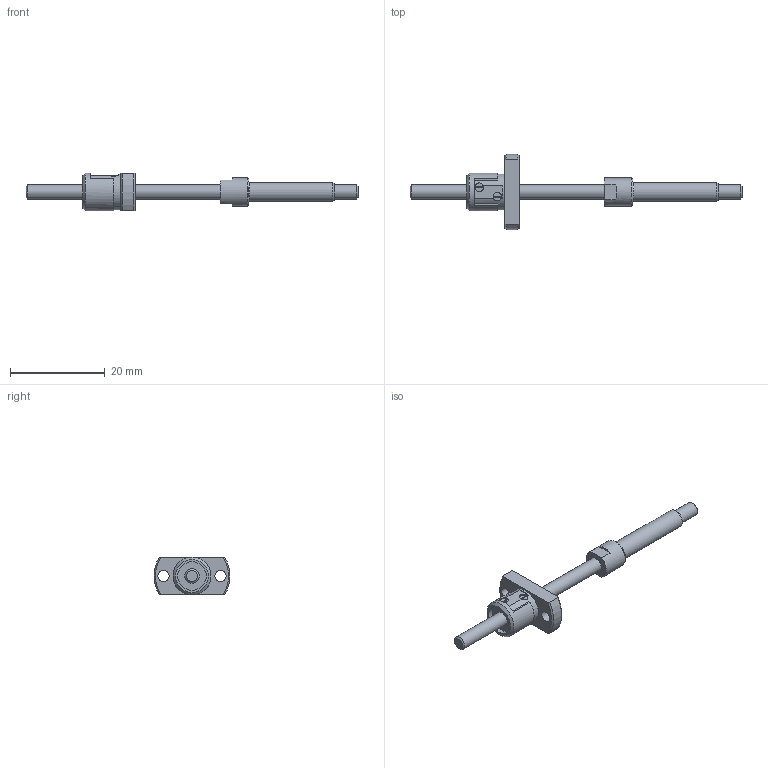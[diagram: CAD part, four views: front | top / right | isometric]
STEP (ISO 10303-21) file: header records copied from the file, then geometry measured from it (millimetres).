
FILE_DESCRIPTION( ( 'STEP AP214' ), '1' );
FILE_NAME( 'p:/temp/worker_6/3108_1760/app_44_12015063013523242818939260eae72_00_00_00_000/STEP/SG0300_5-038R070C3A1X_12__2_14.stp', ' ', ( ' ' ), ( ' ' ), 'PSStep 15.0.47', 'PARTsolutions', ' ' );
FILE_SCHEMA( ( 'AUTOMOTIVE_DESIGN { 1 0 10303 214 1 1 1 1 }' ) );
Length unit declared in the file: millimetre
Products named in the file (3): SG0300.5-038R070C3A1X(12); _SG0300.5-38R70C3A_shaft; _SG0300.5_nut
Assembly tree (2 placements, depth 2):
  SG0300.5-038R070C3A1X(12)
    _SG0300.5-38R70C3A_shaft
    _SG0300.5_nut
Bounding box: 70 x 16 x 8 mm (x, y, z)
Volume: 1309.9 mm3; surface area: 1548.8 mm2
Topology: 2 solids, 2 shells, 67 faces, 172 edges, 113 vertices
Faces by surface type: plane 40, cylinder 17, cone 9, torus 1
Full cylindrical faces by diameter (mm): 1.78 x2, 1.8 x2, 2.4 x2, 3 x3, 4 x1, 6 x3, 7.5 x1, 8 x1
Entity records: 2464 total; most frequent: CARTESIAN_POINT 354, DIRECTION 332, ORIENTED_EDGE 274, EDGE_CURVE 137, AXIS2_PLACEMENT_3D 135, EDGE_LOOP 104, VERTEX_POINT 101, FACE_OUTER_BOUND 83
